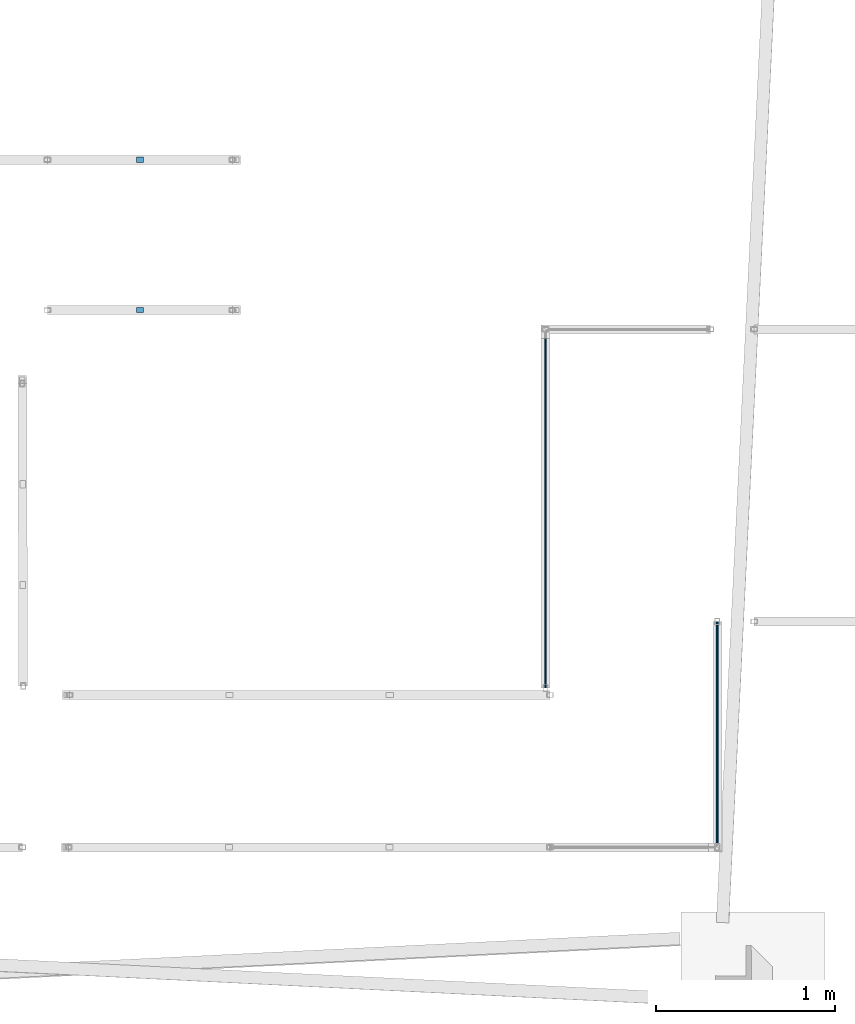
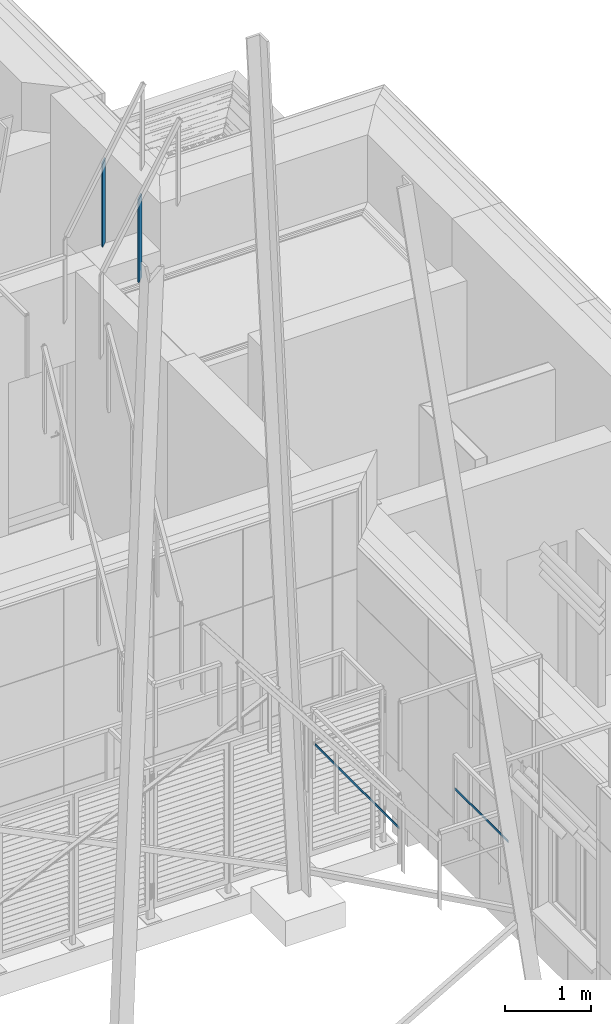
# One storey, part 74 of 418: 4 members, 4 elements without a shape of their own.
"""IFC2X3 building model written with IfcOpenShell, lengths in millimetres."""

import ifcopenshell
import ifcopenshell.guid

model = None  # the IFC model being written
_history = None  # IfcOwnerHistory: only IFC2X3 demands one
_inside = {}  # id of a spatial element -> (the spatial element, [elements in it])
_under = {}  # id of a project, library or spatial element -> (it, [spatial elements below it])
_declared = {}  # id of a project -> (the project, [libraries it declares])
_typed = {}  # id of a type object -> (the type object, [elements of that type])
_made_of = {}  # id of a material, layer set ... -> (it, [elements and type objects made of it])


def new_model(schema):
    """Start an empty IFC model of exactly this schema.

    Asked for "IFC4X3", IfcOpenShell would pick the latest addendum, in which some entities
    have other attributes; the version numbers below select the first issue.
    IFC2X3 requires an IfcOwnerHistory on every rooted entity: one is made here for all.
    """
    global model, _history
    if schema == "IFC4X3":
        model = ifcopenshell.file(schema_version=(4, 3, 0, 0))
    else:
        model = ifcopenshell.file(schema=schema)
    _inside.clear()
    _under.clear()
    _declared.clear()
    _typed.clear()
    _made_of.clear()
    _history = None
    if model.schema == "IFC2X3":
        org = make("IfcOrganization", Name="unknown")
        user = make(
            "IfcPersonAndOrganization",
            ThePerson=make("IfcPerson", FamilyName="unknown"),
            TheOrganization=org,
        )
        app = make(
            "IfcApplication",
            ApplicationDeveloper=org,
            Version="unknown",
            ApplicationFullName="unknown",
            ApplicationIdentifier="unknown",
        )
        _history = make(
            "IfcOwnerHistory",
            OwningUser=user,
            OwningApplication=app,
            ChangeAction="ADDED",
            CreationDate=0,
        )
    return model


def make(cls, **values):
    """One entity of the class cls with the attributes given. An attribute that is None is left unset."""
    return model.create_entity(
        cls, **{name: value for name, value in values.items() if value is not None}
    )


def entity(cls, *values):
    """Any entity or typed value of the class cls, its attributes in the order of the schema. None: left unset."""
    e = model.create_entity(cls)
    for i, value in enumerate(values):
        if value is not None:
            e[i] = value
    return e


def rooted(cls, **values):
    """An entity with a GlobalId (a new one), such as an element, a storey or a relation."""
    return make(cls, GlobalId=ifcopenshell.guid.new(), OwnerHistory=_history, **values)


def si_unit(unit_type, name, prefix=None):
    """IfcSIUnit, for example si_unit("LENGTHUNIT", "METRE", prefix="MILLI")."""
    return make("IfcSIUnit", UnitType=unit_type, Prefix=prefix, Name=name)


def converted_unit(unit_type, name, factor, base, dimensions=None, offset=None):
    """IfcConversionBasedUnit, such as the inch: factor (a typed value) times the base unit."""
    return make(
        "IfcConversionBasedUnit"
        if offset is None
        else "IfcConversionBasedUnitWithOffset",
        ConversionOffset=offset,
        Dimensions=None
        if dimensions is None
        else entity("IfcDimensionalExponents", *dimensions),
        UnitType=unit_type,
        Name=name,
        ConversionFactor=make(
            "IfcMeasureWithUnit", ValueComponent=factor, UnitComponent=base
        ),
    )


def derived_unit(unit_type, elements):
    """IfcDerivedUnit: a product of units, each with its exponent."""
    return make(
        "IfcDerivedUnit",
        Elements=[
            make("IfcDerivedUnitElement", Unit=unit, Exponent=power)
            for unit, power in elements
        ],
        UnitType=unit_type,
    )


def money_unit(currency):
    """IfcMonetaryUnit."""
    return make("IfcMonetaryUnit", Currency=currency)


def assignment(units):
    """IfcUnitAssignment: the units of a project."""
    return None if units is None else make("IfcUnitAssignment", Units=units)


def point(xyz):
    """IfcCartesianPoint."""
    return None if xyz is None else make("IfcCartesianPoint", Coordinates=xyz)


def direction(xyz):
    """IfcDirection."""
    return None if xyz is None else make("IfcDirection", DirectionRatios=xyz)


def frame(location, z_axis=None, x_axis=None):
    """IfcAxis2Placement3D, a coordinate frame: its origin and axes. An axis left out is left unset."""
    return make(
        "IfcAxis2Placement3D",
        Location=point(location),
        Axis=direction(z_axis),
        RefDirection=direction(x_axis),
    )


def origin_with_axes():
    """The frame at (0, 0, 0) with the z axis (0, 0, 1) and the x axis (1, 0, 0) written out."""
    return frame((0.0, 0.0, 0.0), z_axis=(0.0, 0.0, 1.0), x_axis=(1.0, 0.0, 0.0))


def place(relative_to, where):
    """IfcLocalPlacement: puts the frame where relative to a parent placement (None: the world)."""
    return make(
        "IfcLocalPlacement", PlacementRelTo=relative_to, RelativePlacement=where
    )


def context(
    kind, dimensions, precision=None, world=None, true_north=None, identifier=None
):
    """IfcGeometricRepresentationContext, for example the 3D "Model" context."""
    return make(
        "IfcGeometricRepresentationContext",
        ContextIdentifier=identifier,
        ContextType=kind,
        CoordinateSpaceDimension=dimensions,
        Precision=precision,
        WorldCoordinateSystem=world,
        TrueNorth=true_north,
    )


def subcontext(parent, identifier, kind, view, scale=None):
    """IfcGeometricRepresentationSubContext, for example "Body" below "Model"."""
    return make(
        "IfcGeometricRepresentationSubContext",
        ContextIdentifier=identifier,
        ContextType=kind,
        ParentContext=parent,
        TargetScale=scale,
        TargetView=view,
    )


def project(units=None, contexts=None):
    """IfcProject with its units and contexts."""
    return rooted(
        "IfcProject",
        Name="project",
        RepresentationContexts=contexts,
        UnitsInContext=assignment(units),
    )


def spatial(cls, under=None, at=None, **own):
    """A site, building, storey or space (cls), placed at a placement, below another one or the project."""
    s = rooted(cls, ObjectPlacement=at, **own)
    if under is not None:
        _under.setdefault(under.id(), (under, []))[1].append(s)
    return s


def faces_of(points, faces, orient=None, outer=None):
    """IfcFace entities. A face is a list of loops; a loop is a list of indices into points, from 0.

    orient and outer hold one flag for each loop. By default every Orientation is true, the
    first loop of a face is its IfcFaceOuterBound and the others are IfcFaceBound.
    """
    made = []
    for i, loops in enumerate(faces):
        bounds = []
        for j, loop in enumerate(loops):
            is_outer = j == 0 if outer is None else outer[i][j]
            bounds.append(
                make(
                    "IfcFaceOuterBound" if is_outer else "IfcFaceBound",
                    Bound=make("IfcPolyLoop", Polygon=[points[k] for k in loop]),
                    Orientation=True if orient is None else orient[i][j],
                )
            )
        made.append(make("IfcFace", Bounds=bounds))
    return made


def faceted_brep(points, faces, orient=None, outer=None, voids=None):
    """IfcFacetedBrep: a solid bounded by flat faces; with voids (closed shells), ...WithVoids."""
    shared = [point(p) for p in points]
    hull = make("IfcClosedShell", CfsFaces=faces_of(shared, faces, orient, outer))
    if voids is None:
        return make("IfcFacetedBrep", Outer=hull)
    return make(
        "IfcFacetedBrepWithVoids",
        Outer=hull,
        Voids=[
            make(cls, CfsFaces=faces_of(shared, fs, o, b)) for cls, fs, o, b in voids
        ],
    )


def shape(context_of_items, identifier, shape_type, items):
    """IfcShapeRepresentation: the items that make up one representation, for example the "Body"."""
    return make(
        "IfcShapeRepresentation",
        ContextOfItems=context_of_items,
        RepresentationIdentifier=identifier,
        RepresentationType=shape_type,
        Items=items,
    )


def material(Name=None, Category=None):
    """IfcMaterial."""
    return make("IfcMaterial", Name=Name, Category=Category)


def made_of(thing, what):
    """Note that an element or type object is made of a material, layer set ...; save() writes the relation."""
    if what is not None:
        _made_of.setdefault(what.id(), (what, []))[1].append(thing)
    return thing


def type_object(cls, material=None, **own):
    """A type object (cls), such as IfcWallType, which elements share."""
    return made_of(rooted(cls, **own), material)


def element(
    cls,
    number,
    at=None,
    inside=None,
    cuts=None,
    type_object=None,
    material=None,
    context=None,
    identifier="Body",
    shape_type=None,
    held_by="IfcProductDefinitionShape",
    body=None,
    shapes=None,
    **own,
):
    """One element of the class cls, such as IfcWall. Its Tag is "e" and its number.

    at: its placement. inside: the storey or other place that contains it. cuts: it is an
    opening in that element (IfcRelVoidsElement). A single representation is given by context,
    identifier, shape_type and body (its items); several are given by shapes. held_by: the class
    of the entity that holds the representations. save() writes the other relations.
    """
    e = rooted(cls, Tag="e%d" % number, ObjectPlacement=at, **own)
    if body is not None:
        shapes = [shape(context, identifier, shape_type, body)]
    if shapes is not None:
        e.Representation = make(held_by, Representations=shapes)
    if inside is not None:
        _inside.setdefault(inside.id(), (inside, []))[1].append(e)
    if cuts is not None:
        rooted(
            "IfcRelVoidsElement", RelatingBuildingElement=cuts, RelatedOpeningElement=e
        )
    if type_object is not None:
        _typed.setdefault(type_object.id(), (type_object, []))[1].append(e)
    return made_of(e, material)


def aggregate(whole, parts):
    """IfcRelAggregates: a whole, such as a stair, and the parts it consists of."""
    return rooted("IfcRelAggregates", RelatingObject=whole, RelatedObjects=parts)


def save(model, path):
    """Write the relations noted so far, then the file.

    IfcRelAggregates (storeys below a building ...), IfcRelContainedInSpatialStructure (elements
    in a storey), IfcRelDefinesByType, IfcRelAssociatesMaterial and IfcRelDeclares: one each for
    every whole, place, type object, material and project.
    """
    for whole, parts in _under.values():
        aggregate(whole, parts)
    for where, things in _inside.values():
        rooted(
            "IfcRelContainedInSpatialStructure",
            RelatedElements=things,
            RelatingStructure=where,
        )
    for kind, things in _typed.values():
        rooted("IfcRelDefinesByType", RelatedObjects=things, RelatingType=kind)
    for what, things in _made_of.values():
        rooted("IfcRelAssociatesMaterial", RelatedObjects=things, RelatingMaterial=what)
    for by, libraries in _declared.values():
        rooted("IfcRelDeclares", RelatingContext=by, RelatedDefinitions=libraries)
    model.write(path)


model = new_model("IFC2X3")

# Units and contexts
model_context = context("Model", 3, precision=0.01, world=origin_with_axes(), true_north=direction((0.0, 1.0)))
body_context = subcontext(model_context, "Body", "Model", "MODEL_VIEW")
ifc_project = project(units=[si_unit("LENGTHUNIT", "METRE", prefix="MILLI"), si_unit("AREAUNIT", "SQUARE_METRE"), si_unit("VOLUMEUNIT", "CUBIC_METRE"), converted_unit("PLANEANGLEUNIT", "DEGREE", entity("IfcPlaneAngleMeasure", 0.0174532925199), si_unit("PLANEANGLEUNIT", "RADIAN"), dimensions=[0, 0, 0, 0, 0, 0, 0]), si_unit("SOLIDANGLEUNIT", "STERADIAN"), money_unit("EUR"), converted_unit("TIMEUNIT", "Year", entity("IfcTimeMeasure", 31556926.0), si_unit("TIMEUNIT", "SECOND"), dimensions=[0, 0, 1, 0, 0, 0, 0]), si_unit("MASSUNIT", "GRAM", prefix="KILO"), si_unit("THERMODYNAMICTEMPERATUREUNIT", "DEGREE_CELSIUS"), si_unit("LUMINOUSINTENSITYUNIT", "LUMEN"), si_unit("ENERGYUNIT", "JOULE", prefix="MEGA"), derived_unit("THERMALCONDUCTANCEUNIT", [(si_unit("POWERUNIT", "WATT"), 1), (si_unit("LENGTHUNIT", "METRE"), -1), (si_unit("THERMODYNAMICTEMPERATUREUNIT", "KELVIN"), -1)]), derived_unit("SPECIFICHEATCAPACITYUNIT", [(si_unit("ENERGYUNIT", "JOULE"), 1), (si_unit("MASSUNIT", "GRAM", prefix="KILO"), -1), (si_unit("THERMODYNAMICTEMPERATUREUNIT", "KELVIN"), -1)]), derived_unit("MASSDENSITYUNIT", [(si_unit("MASSUNIT", "GRAM", prefix="KILO"), 1), (si_unit("VOLUMEUNIT", "CUBIC_METRE"), -1)])], contexts=[model_context])

# Site, building, storey
site_placement = place(None, origin_with_axes())
site = spatial("IfcSite", under=ifc_project, at=site_placement, Name="Paldiski mnt 245/1, Tallinn, Harjumaa", CompositionType="COMPLEX")
building_placement = place(site_placement, origin_with_axes())
building = spatial("IfcBuilding", under=site, at=building_placement, Name="RKAS Hoone üldnimetus (kasutust iseloomustav) -> IFC Project Manager -> SOLIBRI", CompositionType="ELEMENT")
storey_placement = place(building_placement, origin_with_axes())
storey = spatial("IfcBuildingStorey", under=building, at=storey_placement, Name="Esimene korrus", CompositionType="ELEMENT", Elevation=0.0)

# Railing, member
railing_type = type_object("IfcRailingType", Name="Railing Type", PredefinedType="NOTDEFINED")
railing_1_placement = place(storey_placement, frame((-53974.8755361, -4417.03979706, 10484.375), z_axis=(0.0, 0.0, 1.0), x_axis=(-0.773149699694, -0.634223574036, 0.0)))
railing_1 = element("IfcRailing", 1, at=railing_1_placement, inside=storey, type_object=railing_type, Name="PIIRE", PredefinedType="NOTDEFINED")
ifc_material = material(Name="ET-07_Teras - Roostevaba")
member_type_1 = type_object("IfcMemberType", Name="IfcMember", PredefinedType="POST")
member_1_placement = place(railing_1_placement, frame((-399.537781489, 327.745428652, 801.512912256), z_axis=(0.0, 0.0, 1.0), x_axis=(-0.773149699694, 0.634223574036, 0.0)))
member_1 = element("IfcMember", 2, at=member_1_placement, type_object=member_type_1, material=ifc_material, Name="Piirde Post - 001", ObjectType="POST", context=body_context, shape_type="Brep", body=[
    faceted_brep([(20.0, -15.0, 34.8905395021), (20.0, 15.0, 34.8905395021), (20.0, 15.0, 1214.8905395), (20.0, -15.0, 1214.8905395), (-20.0, -15.0, -34.8905395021), (-20.0, 15.0, -34.8905395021), (-20.0, 15.0, 1145.1094605), (-20.0, -15.0, 1145.1094605)], [[[0, 1, 2, 3]], [[0, 4, 5, 1]], [[1, 5, 6, 2]], [[3, 2, 6, 7]], [[4, 0, 3, 7]], [[5, 4, 7, 6]]]),
])
aggregate(railing_1, [member_1])

railing_2_placement = place(storey_placement, frame((-53974.8966499, -3578.67012715, 10477.0519033), z_axis=(0.0, 0.0, 1.0), x_axis=(-0.773149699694, -0.634223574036, 0.0)))
railing_2 = element("IfcRailing", 3, at=railing_2_placement, inside=storey, type_object=railing_type, Name="PIIRE", PredefinedType="NOTDEFINED")
member_2_placement = place(railing_2_placement, frame((-399.545943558, 327.752124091, 805.174460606), z_axis=(0.0, 0.0, 1.0), x_axis=(-0.773149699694, 0.634223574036, 0.0)))
member_2 = element("IfcMember", 4, at=member_2_placement, type_object=member_type_1, material=ifc_material, Name="Piirde Post - 001", ObjectType="POST", context=body_context, shape_type="Brep", body=[
    faceted_brep([(20.0, -15.0, 35.0315338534), (20.0, 15.0, 35.0315338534), (20.0, 15.0, 1215.03153385), (20.0, -15.0, 1215.03153385), (-20.0, -15.0, -35.0315338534), (-20.0, 15.0, -35.0315338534), (-20.0, 15.0, 1144.96846615), (-20.0, -15.0, 1144.96846615)], [[[0, 1, 2, 3]], [[0, 4, 5, 1]], [[1, 5, 6, 2]], [[3, 2, 6, 7]], [[4, 0, 3, 7]], [[5, 4, 7, 6]]]),
])
aggregate(railing_2, [member_2])

railing_3_placement = place(storey_placement, frame((-50030.6058534, -4525.08408706, 3600.0), z_axis=(0.0, 0.0, 1.0), x_axis=(-0.773149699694, -0.634223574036, 0.0)))
railing_3 = element("IfcRailing", 5, at=railing_3_placement, inside=storey, type_object=railing_type, Name="PIIRE", PredefinedType="NOTDEFINED")
member_type_2 = type_object("IfcMemberType", Name="IfcMember", PredefinedType="USERDEFINED")
member_3_placement = place(railing_3_placement, frame((1550.44928879, 54.3337093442, 379.384471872), z_axis=(0.0, 0.0, 1.0), x_axis=(-0.773149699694, 0.634223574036, 0.0)))
member_3 = element("IfcMember", 6, at=member_3_placement, type_object=member_type_2, material=ifc_material, Name="Piirde alaosa - 001", ObjectType="Rail", context=body_context, shape_type="Brep", body=[
    faceted_brep([(4.92403876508, 975.339580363, 17.1425645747), (5.00000000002, 975.339580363, 20.6155281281), (4.99999999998, -975.339580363, 20.6155281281), (4.92403876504, -975.339580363, 17.1425645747), (4.92403876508, 975.339580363, 24.0884916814), (4.69846310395, 975.339580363, 13.7751252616), (4.33012701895, 975.339580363, 10.6155281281), (3.83022221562, 975.339580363, 7.75977593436), (3.21393804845, 975.339580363, 5.29463926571), (2.50000000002, 975.339580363, 3.2950200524), (1.71010071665, 975.339580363, 1.82167571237), (0.868240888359, 975.339580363, 0.919373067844), (0.0, 975.339580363, 0.615528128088), (-0.868240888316, 975.339580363, 0.919373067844), (-1.71010071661, 975.339580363, 1.82167571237), (-2.49999999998, 975.339580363, 3.2950200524), (-3.21393804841, 975.339580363, 5.29463926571), (-3.83022221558, 975.339580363, 7.75977593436), (-4.3301270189, 975.339580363, 10.6155281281), (-4.69846310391, 975.339580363, 13.7751252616), (-4.92403876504, 975.339580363, 17.1425645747), (-4.99999999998, 975.339580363, 20.6155281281), (-4.92403876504, 975.339580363, 24.0884916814), (-4.69846310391, 975.339580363, 27.4559309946), (-4.3301270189, 975.339580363, 30.6155281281), (-3.83022221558, 975.339580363, 33.4712803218), (-3.21393804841, 975.339580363, 35.9364169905), (-2.49999999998, 975.339580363, 37.9360362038), (-1.71010071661, 975.339580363, 39.4093805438), (-0.868240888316, 975.339580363, 40.3116831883), (0.0, 975.339580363, 40.6155281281), (0.868240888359, 975.339580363, 40.3116831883), (1.71010071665, 975.339580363, 39.4093805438), (2.50000000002, 975.339580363, 37.9360362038), (3.21393804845, 975.339580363, 35.9364169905), (3.83022221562, 975.339580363, 33.4712803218), (4.33012701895, 975.339580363, 30.6155281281), (4.69846310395, 975.339580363, 27.4559309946), (4.92403876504, -975.339580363, 24.0884916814), (4.3301270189, -975.339580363, 10.6155281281), (4.69846310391, -975.339580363, 13.7751252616), (4.69846310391, -975.339580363, 27.4559309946), (4.3301270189, -975.339580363, 30.6155281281), (3.83022221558, -975.339580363, 33.4712803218), (3.21393804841, -975.339580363, 35.9364169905), (2.49999999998, -975.339580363, 37.9360362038), (1.71010071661, -975.339580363, 39.4093805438), (0.868240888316, -975.339580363, 40.3116831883), (0.0, -975.339580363, 40.6155281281), (-0.868240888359, -975.339580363, 40.3116831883), (-1.71010071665, -975.339580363, 39.4093805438), (-2.50000000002, -975.339580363, 37.9360362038), (-3.21393804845, -975.339580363, 35.9364169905), (-3.83022221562, -975.339580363, 33.4712803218), (-4.33012701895, -975.339580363, 30.6155281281), (-4.69846310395, -975.339580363, 27.4559309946), (-4.92403876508, -975.339580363, 24.0884916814), (-5.00000000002, -975.339580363, 20.6155281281), (-4.92403876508, -975.339580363, 17.1425645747), (-4.69846310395, -975.339580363, 13.7751252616), (-4.33012701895, -975.339580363, 10.6155281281), (-3.83022221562, -975.339580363, 7.75977593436), (-3.21393804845, -975.339580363, 5.29463926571), (-2.50000000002, -975.339580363, 3.2950200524), (-1.71010071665, -975.339580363, 1.82167571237), (-0.868240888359, -975.339580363, 0.919373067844), (0.0, -975.339580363, 0.615528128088), (0.868240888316, -975.339580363, 0.919373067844), (1.71010071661, -975.339580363, 1.82167571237), (2.49999999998, -975.339580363, 3.2950200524), (3.21393804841, -975.339580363, 5.29463926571), (3.83022221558, -975.339580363, 7.75977593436)], [[[0, 1, 2, 3]], [[4, 1, 0, 5, 6, 7, 8, 9, 10, 11, 12, 13, 14, 15, 16, 17, 18, 19, 20, 21, 22, 23, 24, 25, 26, 27, 28, 29, 30, 31, 32, 33, 34, 35, 36, 37]], [[1, 4, 38, 2]], [[39, 40, 3, 2, 38, 41, 42, 43, 44, 45, 46, 47, 48, 49, 50, 51, 52, 53, 54, 55, 56, 57, 58, 59, 60, 61, 62, 63, 64, 65, 66, 67, 68, 69, 70, 71]], [[5, 0, 3, 40]], [[6, 5, 40, 39]], [[7, 6, 39, 71]], [[8, 7, 71, 70]], [[9, 8, 70, 69]], [[10, 9, 69, 68]], [[11, 10, 68, 67]], [[12, 11, 67, 66]], [[13, 12, 66, 65]], [[14, 13, 65, 64]], [[15, 14, 64, 63]], [[16, 15, 63, 62]], [[17, 16, 62, 61]], [[18, 17, 61, 60]], [[19, 18, 60, 59]], [[20, 19, 59, 58]], [[21, 20, 58, 57]], [[22, 21, 57, 56]], [[23, 22, 56, 55]], [[24, 23, 55, 54]], [[25, 24, 54, 53]], [[26, 25, 53, 52]], [[27, 26, 52, 51]], [[28, 27, 51, 50]], [[29, 28, 50, 49]], [[30, 29, 49, 48]], [[31, 30, 48, 47]], [[32, 31, 47, 46]], [[33, 32, 46, 45]], [[34, 33, 45, 44]], [[35, 34, 44, 43]], [[36, 35, 43, 42]], [[37, 36, 42, 41]], [[4, 37, 41, 38]]]),
])
aggregate(railing_3, [member_3])

railing_4_placement = place(storey_placement, frame((-50030.6058534, -6155.24631697, 3600.0), z_axis=(0.0, 0.0, 1.0), x_axis=(-0.773149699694, -0.634223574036, 0.0)))
railing_4 = element("IfcRailing", 7, at=railing_4_placement, inside=storey, type_object=railing_type, Name="PIIRE", PredefinedType="NOTDEFINED")
member_4_placement = place(railing_4_placement, frame((550.128745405, 347.404106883, 379.384471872), z_axis=(0.0, 0.0, 1.0), x_axis=(-0.773149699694, 0.634223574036, 0.0)))
member_4 = element("IfcMember", 8, at=member_4_placement, type_object=member_type_2, material=ifc_material, Name="Piirde alaosa - 001", ObjectType="Rail", context=body_context, shape_type="Brep", body=[
    faceted_brep([(5.00000000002, 617.5, 20.6155281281), (4.92403876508, 617.5, 24.0884916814), (4.92403876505, -617.822738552, 24.0884916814), (4.99999999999, -617.827717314, 20.6155281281), (4.92403876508, 617.5, 17.1425645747), (4.69846310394, 617.5, 13.7751252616), (4.33012701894, 617.5, 10.6155281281), (3.83022221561, 617.5, 7.75977593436), (3.21393804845, 617.5, 5.29463926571), (2.50000000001, 617.5, 3.2950200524), (1.71010071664, 617.5, 1.82167571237), (0.868240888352, 617.5, 0.919373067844), (0.0, 617.5, 0.615528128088), (-0.868240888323, 617.5, 0.919373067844), (-1.71010071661, 617.5, 1.82167571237), (-2.49999999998, 617.5, 3.2950200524), (-3.21393804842, 617.5, 5.29463926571), (-3.83022221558, 617.5, 7.75977593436), (-4.33012701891, 617.5, 10.6155281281), (-4.69846310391, 617.5, 13.7751252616), (-4.92403876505, 617.5, 17.1425645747), (-4.99999999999, 617.5, 20.6155281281), (-4.92403876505, 617.5, 24.0884916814), (-4.69846310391, 617.5, 27.4559309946), (-4.33012701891, 617.5, 30.6155281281), (-3.83022221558, 617.5, 33.4712803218), (-3.21393804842, 617.5, 35.9364169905), (-2.49999999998, 617.5, 37.9360362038), (-1.71010071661, 617.5, 39.4093805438), (-0.868240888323, 617.5, 40.3116831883), (0.0, 617.5, 40.6155281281), (0.868240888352, 617.5, 40.3116831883), (1.71010071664, 617.5, 39.4093805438), (2.50000000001, 617.5, 37.9360362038), (3.21393804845, 617.5, 35.9364169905), (3.83022221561, 617.5, 33.4712803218), (4.33012701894, 617.5, 30.6155281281), (4.69846310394, 617.5, 27.4559309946), (4.69846310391, -617.807953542, 27.4559309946), (4.33012701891, -617.783811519, 30.6155281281), (3.83022221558, -617.751046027, 33.4712803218), (3.21393804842, -617.710652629, 35.9364169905), (2.49999999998, -617.663858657, 37.9360362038), (1.71010071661, -617.612085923, 39.4093805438), (0.868240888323, -617.556907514, 40.3116831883), (0.0, -617.5, 40.6155281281), (-0.868240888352, -617.443092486, 40.3116831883), (-1.71010071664, -617.387914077, 39.4093805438), (-2.50000000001, -617.336141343, 37.9360362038), (-3.21393804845, -617.289347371, 35.9364169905), (-3.83022221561, -617.248953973, 33.4712803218), (-4.33012701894, -617.216188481, 30.6155281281), (-4.69846310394, -617.192046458, 27.4559309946), (-4.92403876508, -617.177261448, 24.0884916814), (-5.00000000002, -617.172282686, 20.6155281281), (-4.92403876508, -617.177261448, 17.1425645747), (-4.69846310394, -617.192046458, 13.7751252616), (-4.33012701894, -617.216188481, 10.6155281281), (-3.83022221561, -617.248953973, 7.75977593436), (-3.21393804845, -617.289347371, 5.29463926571), (-2.50000000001, -617.336141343, 3.2950200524), (-1.71010071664, -617.387914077, 1.82167571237), (-0.868240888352, -617.443092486, 0.919373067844), (0.0, -617.5, 0.615528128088), (0.868240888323, -617.556907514, 0.919373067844), (1.71010071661, -617.612085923, 1.82167571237), (2.49999999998, -617.663858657, 3.2950200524), (3.21393804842, -617.710652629, 5.29463926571), (3.83022221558, -617.751046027, 7.75977593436), (4.33012701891, -617.783811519, 10.6155281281), (4.69846310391, -617.807953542, 13.7751252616), (4.92403876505, -617.822738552, 17.1425645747)], [[[0, 1, 2, 3]], [[0, 4, 5, 6, 7, 8, 9, 10, 11, 12, 13, 14, 15, 16, 17, 18, 19, 20, 21, 22, 23, 24, 25, 26, 27, 28, 29, 30, 31, 32, 33, 34, 35, 36, 37, 1]], [[1, 37, 38, 2]], [[3, 2, 38, 39, 40, 41, 42, 43, 44, 45, 46, 47, 48, 49, 50, 51, 52, 53, 54, 55, 56, 57, 58, 59, 60, 61, 62, 63, 64, 65, 66, 67, 68, 69, 70, 71]], [[4, 0, 3, 71]], [[5, 4, 71, 70]], [[6, 5, 70, 69]], [[7, 6, 69, 68]], [[8, 7, 68, 67]], [[9, 8, 67, 66]], [[10, 9, 66, 65]], [[11, 10, 65, 64]], [[12, 11, 64, 63]], [[13, 12, 63, 62]], [[14, 13, 62, 61]], [[15, 14, 61, 60]], [[16, 15, 60, 59]], [[17, 16, 59, 58]], [[18, 17, 58, 57]], [[19, 18, 57, 56]], [[20, 19, 56, 55]], [[21, 20, 55, 54]], [[22, 21, 54, 53]], [[23, 22, 53, 52]], [[24, 23, 52, 51]], [[25, 24, 51, 50]], [[26, 25, 50, 49]], [[27, 26, 49, 48]], [[28, 27, 48, 47]], [[29, 28, 47, 46]], [[30, 29, 46, 45]], [[31, 30, 45, 44]], [[32, 31, 44, 43]], [[33, 32, 43, 42]], [[34, 33, 42, 41]], [[35, 34, 41, 40]], [[36, 35, 40, 39]], [[37, 36, 39, 38]]]),
])
aggregate(railing_4, [member_4])

save(model, "model.ifc")
